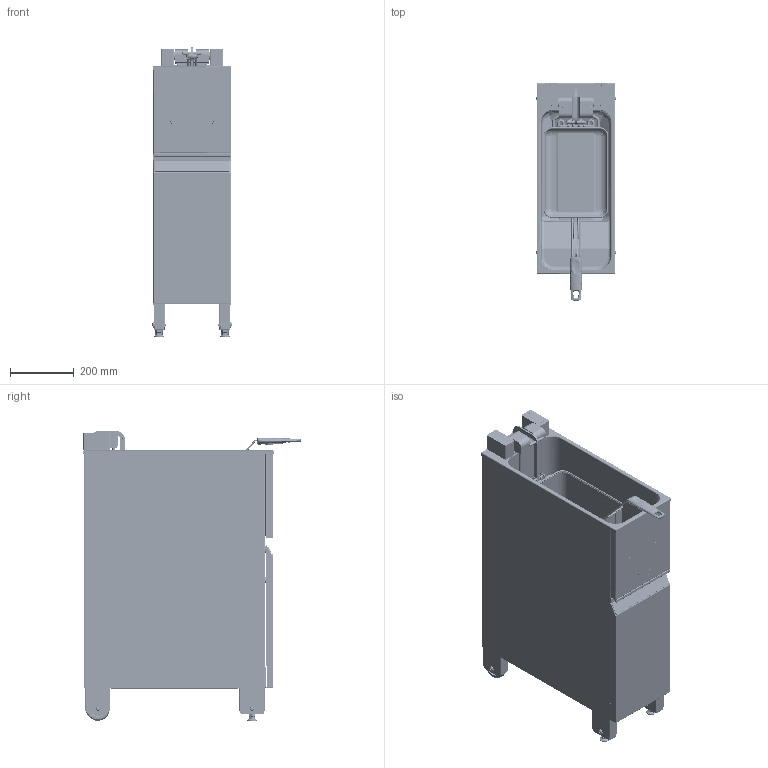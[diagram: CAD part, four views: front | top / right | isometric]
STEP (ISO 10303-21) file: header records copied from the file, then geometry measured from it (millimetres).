
FILE_DESCRIPTION(/* description */ (''),/* implementation_level */ '2;1');
FILE_NAME(/* name */ 'CORE SMART 250',/* time_stamp */ '2025-10-22T13:17:15+02:00',/* author */ (''),/* organization */ (''),/* preprocessor_version */ 'ST-DEVELOPER v19.2',/* originating_system */ 'Rhino 8.23',/* authorisation */ '');
FILE_SCHEMA (('CONFIG_CONTROL_DESIGN'));
Products named in the file (1): Document
Bounding box: 249.8 x 684.84 x 910.4 mm (x, y, z)
Volume: 4564279.5 mm3; surface area: 6832490.3 mm2
Topology: 132 solids, 164 shells, 5583 faces, 14082 edges, 8844 vertices
Faces by surface type: plane 2388, cylinder 1936, bspline 1259
Full cylindrical faces by diameter (mm): 27 x1
Entity records: 277902 total; most frequent: CARTESIAN_POINT 163677, ORIENTED_EDGE 27820, EDGE_CURVE 14044, DIRECTION 13348, B_SPLINE_CURVE_WITH_KNOTS 9198, VERTEX_POINT 8844, AXIS2_PLACEMENT_3D 8836, EDGE_LOOP 6203
